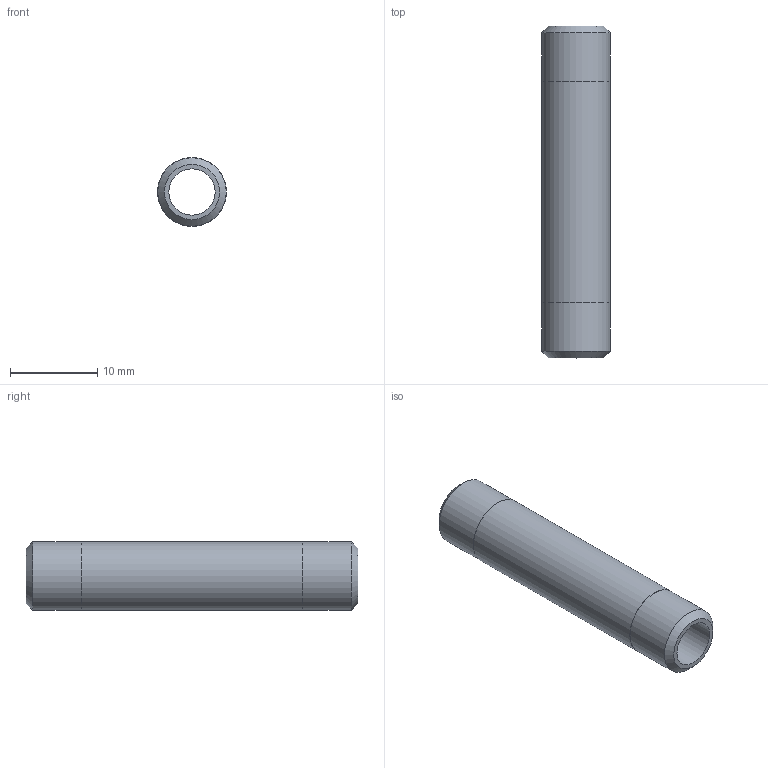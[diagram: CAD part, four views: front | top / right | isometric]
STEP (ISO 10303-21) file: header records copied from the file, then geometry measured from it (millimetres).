
FILE_DESCRIPTION(/* description */ (''),/* implementation_level */ '2;1');
FILE_NAME(/* name */ 'C:/Users/drich/Desktop/SSPN16-1-1_2 v1.step',/* time_stamp */ '2020-01-04T13:21:58-06:00',/* author */ (''),/* organization */ (''),/* preprocessor_version */ 'ST-DEVELOPER v18',/* originating_system */ 'Autodesk Translation Framework v8.12.0.6',/* authorisation */ '');
FILE_SCHEMA (('AUTOMOTIVE_DESIGN { 1 0 10303 214 3 1 1 }'));
Length unit declared in the file: inch
Products named in the file (1): SSPN16-1-1_2
Bounding box: 7.92 x 38.1 x 7.92 mm (x, y, z)
Volume: 1014.6 mm3; surface area: 1612.7 mm2
Topology: 1 solids, 1 shells, 10 faces, 24 edges, 18 vertices
Faces by surface type: cylinder 4, plane 4, cone 2
Full cylindrical faces by diameter (mm): 5.309 x1, 7.874 x2, 7.925 x1
Entity records: 353 total; most frequent: DIRECTION 64, CARTESIAN_POINT 53, ORIENTED_EDGE 48, AXIS2_PLACEMENT_3D 29, EDGE_CURVE 24, CIRCLE 18, VERTEX_POINT 18, EDGE_LOOP 14
